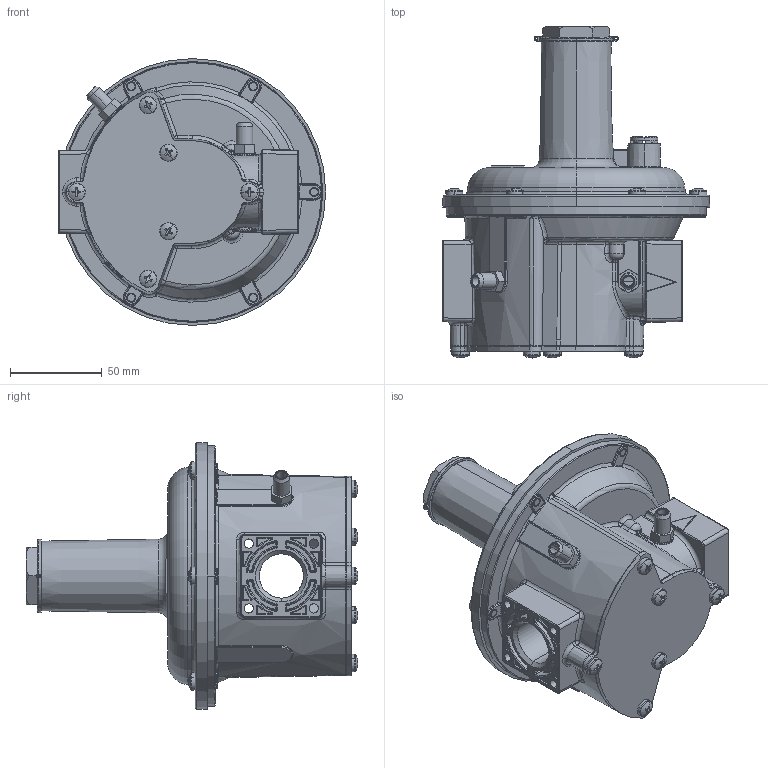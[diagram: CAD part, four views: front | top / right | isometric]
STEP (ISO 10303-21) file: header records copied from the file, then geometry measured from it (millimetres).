
FILE_DESCRIPTION (( 'STEP AP203' ), '1' );
FILE_NAME ('009.0221.101-4.STEP', '2014-01-13T14:57:15', ( 'Adminwatts' ), ( 'Microsoft' ), 'SwSTEP 2.0', 'SolidWorks 2012', '' );
FILE_SCHEMA (( 'CONFIG_CONTROL_DESIGN' ));
Length unit declared in the file: millimetre
Products named in the file (1): 009.0221.101-4
Bounding box: 145.72 x 180.88 x 145.44 mm (x, y, z)
Surface area: 97933 mm2 (no closed solid volume)
Topology: 0 solids, 27 shells, 1300 faces, 3803 edges, 2400 vertices
Faces by surface type: plane 448, cylinder 299, bspline 217, torus 164, cone 92, sphere 80
Entity records: 50213 total; most frequent: CARTESIAN_POINT 17719, DIRECTION 6843, ORIENTED_EDGE 6409, EDGE_CURVE 3761, AXIS2_PLACEMENT_3D 2727, VERTEX_POINT 2392, CIRCLE 1643, EDGE_LOOP 1393
